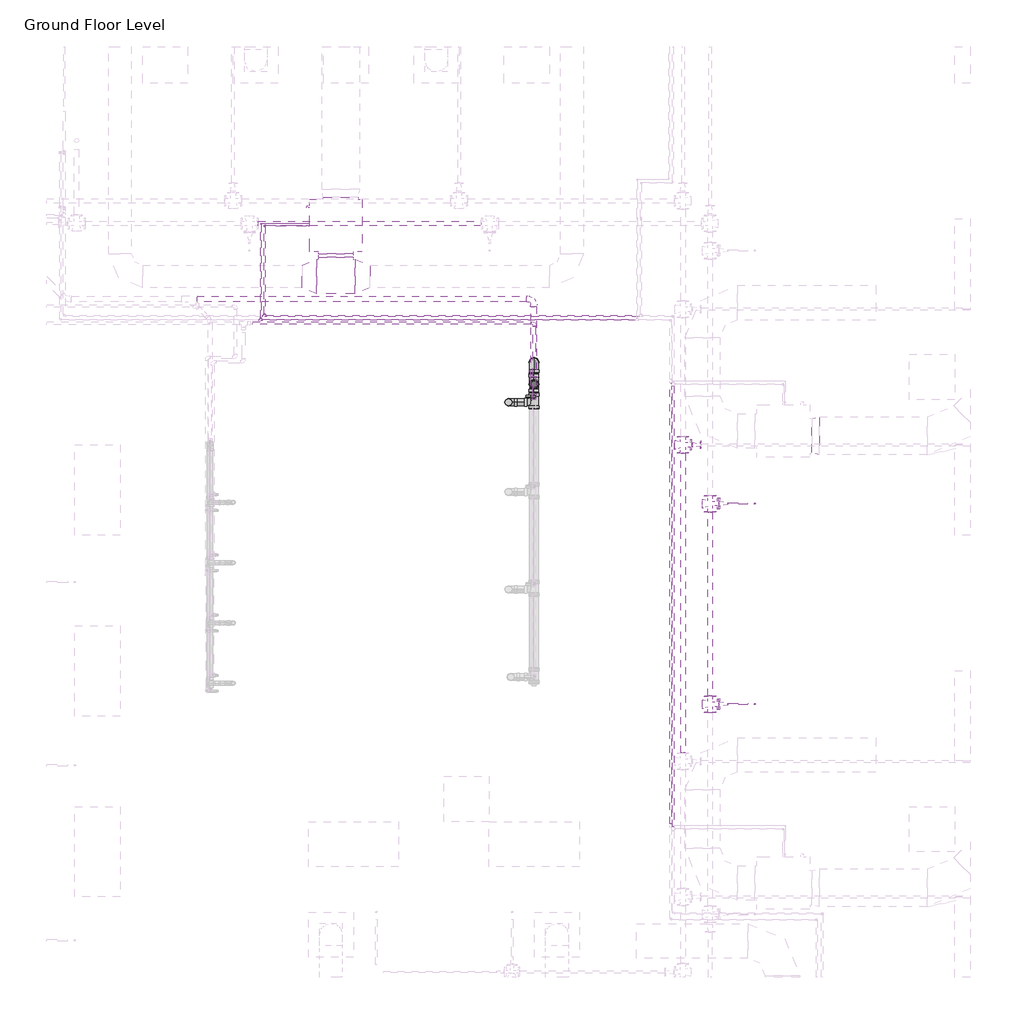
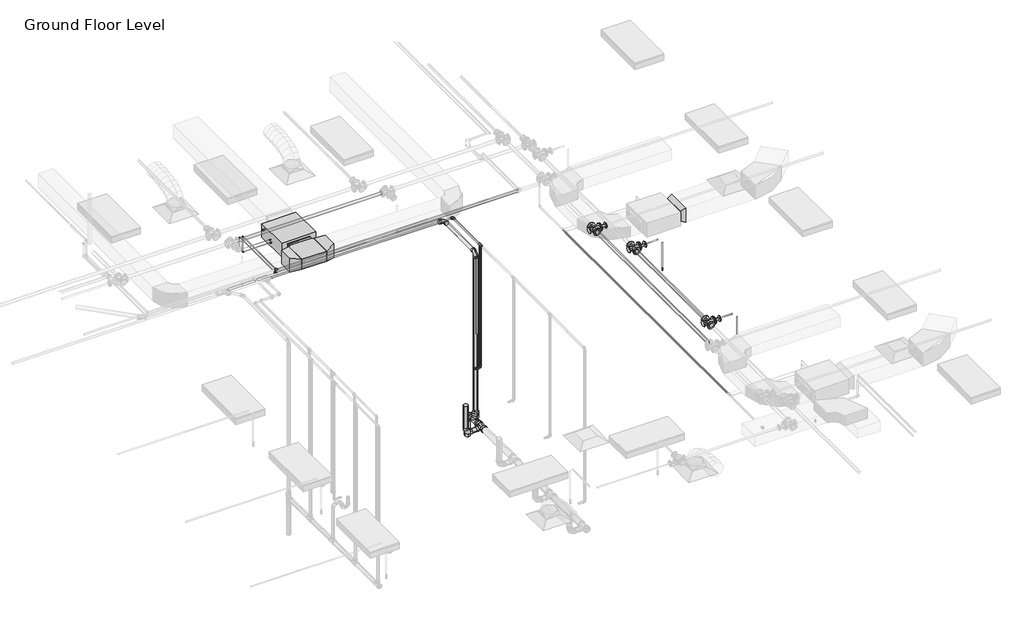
# One storey, part 66 of 74: 30 pipe segments, 24 pipe fittings, 6 duct fittings, 2 fire suppression terminals, 1 duct segment, 1 proxy.
"""IFC4 building model written with IfcOpenShell, lengths in millimetres."""

from ifc_helpers import new_model, si_unit, point, frame, frame_2d, origin, place, context, project, spatial, polyline, circle_curve, trimmed, segment, composite_curve, outline, extrude, transform, mapped, element, save
from components import fcu_daikin_iu_bad131e0, m_rectangular_tee_standard_fa4de0e8, m_rectangular_transition_angle_45_degree_2b595dfe, m_rectangular_transition_angle_45_degree_27e6000f, m_rectangular_transition_angle_45_degree_1c32c0a1, m_rectangular_transition_angle_45_degree_6e5ad010, m_sprinkler_pendent_15_mm_pendent_06fcbd8e, m_bend_pvc_sch_40_dwv_standard_a4b99d37, m_bend_pvc_sch_40_dwv_standard_b7b4a97e, m_bend_pvc_sch_40_dwv_standard_c8221c0d, m_bend_pvc_sch_40_dwv_standard_69456cca, m_elbow_generic_standard_a088f956, m_elbow_generic_standard_2a704253, m_elbow_generic_standard_6b1a80c6, m_elbow_generic_standard_5542be81, m_reducer_flanged_cs_class_150_standard_9dfe9ec5, m_reducer_flanged_cs_class_150_standard_a7631c35, m_reducer_pvc_sch_40_dwv_standard_9996614f, m_tee_generic_standard_cdc1cff5, m_tee_generic_standard_bbfc025c, m_tee_reducing_sanitary_pvc_sch_40_dwv_standard_b49161a9, m_tee_reducing_sanitary_pvc_sch_40_dwv_standard_c42f3c59, m_tee_round_base_flanged_cs_class_150_standard_dd767e04, m_transition_generic_standard_e9aec4dd, m_transition_generic_standard_c2658a33, standard_517a5a8d, standard_72b35c3b

model = new_model("IFC4")

# Units and contexts
model_context = context("Model", 3, world=origin())
ifc_project = project(units=[si_unit("LENGTHUNIT", "METRE", prefix="MILLI")], contexts=[model_context])

# Site, building, storey
site = spatial("IfcSite", under=ifc_project)
building = spatial("IfcBuilding", under=site)
storey = spatial("IfcBuildingStorey", under=building, Name="Ground Floor Level", Elevation=900.0)

# Proxy
placement = place(None, origin())
fcu_daikin_iu_shape = fcu_daikin_iu_bad131e0(model_context)
element("IfcBuildingElementProxy", 1, Name="FCU-DAIKIN IU : 4.5kW, 230V/50Hz/1Ph", ObjectType="FCU-DAIKIN IU : 4.5kW, 230V/50Hz/1Ph", at=placement, inside=storey, context=model_context, shape_type="MappedRepresentation", body=[
    mapped(fcu_daikin_iu_shape, transform((1027.7672395, 14745.2153534, 3934.0872564), x_axis=(-1.0, 0.0, 0.0), y_axis=(0.0, -1.0, 0.0), z_axis=(0.0, 0.0, 1.0))),
])

# Duct fittings
m_rectangular_tee_standard_shape = m_rectangular_tee_standard_fa4de0e8(model_context)
element("IfcDuctFitting", 2, ObjectType="M_Rectangular Tee : Standard", at=placement, inside=storey, context=model_context, shape_type="MappedRepresentation", body=[
    mapped(m_rectangular_tee_standard_shape, transform((1027.7672395, 14069.8153534, 4075.2872564), x_axis=(-1.0, 0.0, 0.0), y_axis=(0.0, -1.0, 0.0), z_axis=(0.0, 0.0, 1.0))),
])
m_rectangular_transition_angle_45_degree_shape = m_rectangular_transition_angle_45_degree_2b595dfe(model_context)
element("IfcDuctFitting", 3, ObjectType="M_Rectangular Transition - Angle : 45 Degree", at=placement, inside=storey, context=model_context, shape_type="MappedRepresentation", body=[
    mapped(m_rectangular_transition_angle_45_degree_shape, transform((7344.2139492, 11956.1779527, 4100.0057729), x_axis=(1.0, 0.0, 0.0), y_axis=(0.0, 1.0, 0.0), z_axis=(0.0, 0.0, 1.0))),
])
m_rectangular_transition_angle_45_degree_2_shape = m_rectangular_transition_angle_45_degree_27e6000f(model_context)
element("IfcDuctFitting", 4, ObjectType="M_Rectangular Transition - Angle : 45 Degree", at=placement, inside=storey, context=model_context, shape_type="MappedRepresentation", body=[
    mapped(m_rectangular_transition_angle_45_degree_2_shape, transform((1027.7672395, 14369.8153534, 4075.2872564), x_axis=(0.0, -1.0, 0.0), y_axis=(1.0, 0.0, 0.0), z_axis=(0.0, 0.0, 1.0))),
])
m_rectangular_transition_angle_45_degree_3_shape = m_rectangular_transition_angle_45_degree_1c32c0a1(model_context)
element("IfcDuctFitting", 5, ObjectType="M_Rectangular Transition - Angle : 45 Degree", at=placement, inside=storey, context=model_context, shape_type="MappedRepresentation", body=[
    mapped(m_rectangular_transition_angle_45_degree_3_shape, transform((1027.7672395, 14326.1149854, 4075.2872564), x_axis=(0.0, -1.0, 0.0), y_axis=(1.0, 0.0, 0.0), z_axis=(0.0, 0.0, 1.0))),
])
m_rectangular_transition_angle_45_degree_4_shape = m_rectangular_transition_angle_45_degree_6e5ad010(model_context)
element("IfcDuctFitting", 6, ObjectType="M_Rectangular Transition - Angle : 45 Degree", at=placement, inside=storey, context=model_context, shape_type="MappedRepresentation", body=[
    mapped(m_rectangular_transition_angle_45_degree_4_shape, transform((771.8297395, 14069.8153534, 4075.2872564), x_axis=(-1.0, 0.0, 0.0), y_axis=(0.0, -1.0, 0.0), z_axis=(0.0, 0.0, 1.0))),
])
element("IfcDuctFitting", 7, ObjectType="M_Rectangular Transition - Angle : 45 Degree", at=placement, inside=storey, context=model_context, shape_type="MappedRepresentation", body=[
    mapped(m_rectangular_transition_angle_45_degree_4_shape, transform((1283.7047395, 14069.8153534, 4075.2872564), x_axis=(1.0, 0.0, 0.0), y_axis=(0.0, 1.0, 0.0), z_axis=(0.0, 0.0, 1.0))),
])

# Duct segment
element("IfcDuctSegment", 8, ObjectType="Radius Elbows / Taps", at=placement, inside=storey, context=model_context, shape_type="SweptSolid", body=[
    extrude(outline(polyline([(796.7672395, 14369.4532214), (1258.7672395, 14369.4532214), (1258.7672395, 14326.1149854), (796.7672395, 14326.1149854), (796.7672395, 14369.4532214)])), frame((0.0, 0.0, 3968.2872564), z_axis=(0.0, 0.0, 1.0), x_axis=(1.0, 0.0, 0.0)), (0.0, 0.0, 1.0), 214.0),
])

# Fire suppression terminals
m_sprinkler_pendent_15_mm_pendent_shape = m_sprinkler_pendent_15_mm_pendent_06fcbd8e(model_context)
element("IfcFireSuppressionTerminal", 9, ObjectType="M_Sprinkler - Pendent : 15 mm Pendent", at=placement, inside=storey, context=model_context, shape_type="MappedRepresentation", body=[
    mapped(m_sprinkler_pendent_15_mm_pendent_shape, transform((6592.5481019, 11054.9808263, 3650.0), x_axis=(1.0, 0.0, 0.0), y_axis=(0.0, 1.0, 0.0), z_axis=(0.0, 0.0, 1.0))),
])
element("IfcFireSuppressionTerminal", 10, ObjectType="M_Sprinkler - Pendent : 15 mm Pendent", at=placement, inside=storey, context=model_context, shape_type="MappedRepresentation", body=[
    mapped(m_sprinkler_pendent_15_mm_pendent_shape, transform((6592.5481019, 8393.5579106, 3650.0), x_axis=(1.0, 0.0, 0.0), y_axis=(0.0, 1.0, 0.0), z_axis=(0.0, 0.0, 1.0))),
])

# Pipe fittings
m_bend_pvc_sch_40_dwv_standard_shape = m_bend_pvc_sch_40_dwv_standard_a4b99d37(model_context)
element("IfcPipeFitting", 11, ObjectType="M_Bend - PVC - Sch 40 - DWV : Standard", at=placement, inside=storey, context=model_context, shape_type="MappedRepresentation", body=[
    mapped(m_bend_pvc_sch_40_dwv_standard_shape, transform((3319.2245422, 12401.0385609, 390.1593073), x_axis=(0.0, 0.0, -1.0), y_axis=(1.0, 0.0, 0.0), z_axis=(0.0, -1.0, 0.0))),
])
m_bend_pvc_sch_40_dwv_standard_2_shape = m_bend_pvc_sch_40_dwv_standard_b7b4a97e(model_context)
element("IfcPipeFitting", 12, ObjectType="M_Bend - PVC - Sch 40 - DWV : Standard", at=placement, inside=storey, context=model_context, shape_type="MappedRepresentation", body=[
    mapped(m_bend_pvc_sch_40_dwv_standard_2_shape, transform((3657.4922763, 12931.9692954, 384.8), x_axis=(0.0, 0.9999500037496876, -0.00999950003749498), y_axis=(0.0, -0.00999950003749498, -0.9999500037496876), z_axis=(-1.0, 0.0, 0.0))),
])
m_bend_pvc_sch_40_dwv_standard_3_shape = m_bend_pvc_sch_40_dwv_standard_c8221c0d(model_context)
element("IfcPipeFitting", 13, ObjectType="M_Bend - PVC - Sch 40 - DWV : Standard", at=placement, inside=storey, context=model_context, shape_type="MappedRepresentation", body=[
    mapped(m_bend_pvc_sch_40_dwv_standard_3_shape, transform((3657.4860907, 12640.4076203, 4054.1870995), x_axis=(0.0, 0.0, 1.0), y_axis=(0.0, 1.0, 0.0), z_axis=(-1.0, 0.0, 0.0))),
])
m_bend_pvc_sch_40_dwv_standard_4_shape = m_bend_pvc_sch_40_dwv_standard_69456cca(model_context)
element("IfcPipeFitting", 14, ObjectType="M_Bend - PVC - Sch 40 - DWV : Standard", at=placement, inside=storey, context=model_context, shape_type="MappedRepresentation", body=[
    mapped(m_bend_pvc_sch_40_dwv_standard_4_shape, transform((3657.4860907, 13768.7316659, 4065.526469), x_axis=(0.0, 0.9999495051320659, 0.010049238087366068), y_axis=(-0.9999499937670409, -0.00010049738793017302, 0.009999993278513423), z_axis=(0.01000049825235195, -0.010048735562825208, 0.9998995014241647))),
])
m_elbow_generic_standard_shape = m_elbow_generic_standard_a088f956(model_context)
element("IfcPipeFitting", 15, ObjectType="M_Elbow - Generic : Standard", at=placement, inside=storey, context=model_context, shape_type="MappedRepresentation", body=[
    mapped(m_elbow_generic_standard_shape, transform((79.6672395, 14745.2153534, 4380.0), x_axis=(0.0, 0.0, 1.0), y_axis=(0.0, -1.0, 0.0), z_axis=(1.0, 0.0, 0.0))),
])
m_elbow_generic_standard_2_shape = m_elbow_generic_standard_2a704253(model_context)
element("IfcPipeFitting", 16, ObjectType="M_Elbow - Generic : Standard", at=placement, inside=storey, context=model_context, shape_type="MappedRepresentation", body=[
    mapped(m_elbow_generic_standard_2_shape, transform((29.9807053, 14770.2153534, 4365.0), x_axis=(0.0, 0.0, 1.0), y_axis=(0.0, -1.0, 0.0), z_axis=(1.0, 0.0, 0.0))),
])
m_elbow_generic_standard_3_shape = m_elbow_generic_standard_6b1a80c6(model_context)
element("IfcPipeFitting", 17, ObjectType="M_Elbow - Generic : Standard", at=placement, inside=storey, context=model_context, shape_type="MappedRepresentation", body=[
    mapped(m_elbow_generic_standard_3_shape, transform((79.6640192, 14745.2153534, 4034.0996164), x_axis=(0.0, 0.0, -1.0), y_axis=(1.0, 0.0, 0.0), z_axis=(0.0, -1.0, 0.0))),
])
m_elbow_generic_standard_4_shape = m_elbow_generic_standard_5542be81(model_context)
element("IfcPipeFitting", 18, ObjectType="M_Elbow - Generic : Standard", at=placement, inside=storey, context=model_context, shape_type="MappedRepresentation", body=[
    mapped(m_elbow_generic_standard_4_shape, transform((29.9777475, 14770.2153534, 4084.8996164), x_axis=(0.0, 0.0, -1.0), y_axis=(1.0, 0.0, 0.0), z_axis=(0.0, -1.0, 0.0))),
])
m_reducer_flanged_cs_class_150_standard_shape = m_reducer_flanged_cs_class_150_standard_9dfe9ec5(model_context)
element("IfcPipeFitting", 19, ObjectType="M_Reducer - Flanged - CS - Class 150 : Standard", at=placement, inside=storey, context=model_context, shape_type="MappedRepresentation", body=[
    mapped(m_reducer_flanged_cs_class_150_standard_shape, transform((6111.057812, 11054.9808263, 4291.2754753), x_axis=(1.0, 0.0, 0.0), y_axis=(0.0, 0.0, -1.0), z_axis=(0.0, 1.0, 0.0))),
])
element("IfcPipeFitting", 20, ObjectType="M_Reducer - Flanged - CS - Class 150 : Standard", at=placement, inside=storey, context=model_context, shape_type="MappedRepresentation", body=[
    mapped(m_reducer_flanged_cs_class_150_standard_shape, transform((6111.057812, 8393.5579106, 4291.2754753), x_axis=(1.0, 0.0, 0.0), y_axis=(0.0, 0.0, -1.0), z_axis=(0.0, 1.0, 0.0))),
])
m_reducer_flanged_cs_class_150_standard_2_shape = m_reducer_flanged_cs_class_150_standard_a7631c35(model_context)
element("IfcPipeFitting", 21, ObjectType="M_Reducer - Flanged - CS - Class 150 : Standard", at=placement, inside=storey, context=model_context, shape_type="MappedRepresentation", body=[
    mapped(m_reducer_flanged_cs_class_150_standard_2_shape, transform((5749.869498, 11835.2153534, 4360.0), x_axis=(1.0, 0.0, 0.0), y_axis=(0.0, 0.0, 1.0), z_axis=(0.0, -1.0, 0.0))),
])
m_reducer_pvc_sch_40_dwv_standard_shape = m_reducer_pvc_sch_40_dwv_standard_9996614f(model_context)
element("IfcPipeFitting", 22, ObjectType="M_Reducer - PVC - Sch 40 - DWV : Standard", at=placement, inside=storey, context=model_context, shape_type="MappedRepresentation", body=[
    mapped(m_reducer_pvc_sch_40_dwv_standard_shape, transform((3657.4891752, 12640.1615283, 533.8243961), x_axis=(0.0, 7.101608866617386e-05, 0.9999999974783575), y_axis=(0.0, 0.9999999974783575, -7.101608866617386e-05), z_axis=(-1.0, 0.0, 0.0))),
])
m_tee_generic_standard_shape = m_tee_generic_standard_cdc1cff5(model_context)
element("IfcPipeFitting", 23, ObjectType="M_Tee - Generic : Standard", at=placement, inside=storey, context=model_context, shape_type="MappedRepresentation", body=[
    mapped(m_tee_generic_standard_shape, transform((29.9807053, 13494.0185138, 4365.0), x_axis=(-1.0, 0.0, 0.0), y_axis=(0.0, -1.0, 0.0), z_axis=(0.0, 0.0, 1.0))),
])
m_tee_generic_standard_2_shape = m_tee_generic_standard_bbfc025c(model_context)
element("IfcPipeFitting", 24, ObjectType="M_Tee - Generic : Standard", at=placement, inside=storey, context=model_context, shape_type="MappedRepresentation", body=[
    mapped(m_tee_generic_standard_2_shape, transform((79.6672395, 13545.2153534, 4380.0), x_axis=(-1.0, 0.0, 0.0), y_axis=(0.0, -1.0, 0.0), z_axis=(0.0, 0.0, 1.0))),
])
m_tee_reducing_sanitary_pvc_sch_40_dwv_standard_shape = m_tee_reducing_sanitary_pvc_sch_40_dwv_standard_b49161a9(model_context)
element("IfcPipeFitting", 25, ObjectType="M_Tee Reducing Sanitary - PVC - Sch 40 - DWV : Standard", at=placement, inside=storey, context=model_context, shape_type="MappedRepresentation", body=[
    mapped(m_tee_reducing_sanitary_pvc_sch_40_dwv_standard_shape, transform((3657.4922763, 12401.038061, 390.1093123), x_axis=(0.0, -0.9999500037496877, 0.009999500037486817), y_axis=(1.0000000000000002, 0.0, 0.0), z_axis=(0.0, 0.009999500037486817, 0.9999500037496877))),
])
m_tee_reducing_sanitary_pvc_sch_40_dwv_standard_2_shape = m_tee_reducing_sanitary_pvc_sch_40_dwv_standard_c42f3c59(model_context)
element("IfcPipeFitting", 26, ObjectType="M_Tee Reducing Sanitary - PVC - Sch 40 - DWV : Standard", at=placement, inside=storey, context=model_context, shape_type="MappedRepresentation", body=[
    mapped(m_tee_reducing_sanitary_pvc_sch_40_dwv_standard_2_shape, transform((3657.4922763, 12640.3832411, 387.7158605), x_axis=(0.0, -0.9999500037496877, 0.009999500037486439), y_axis=(0.0, -0.009999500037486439, -0.9999500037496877), z_axis=(1.0, 0.0, 0.0))),
])
m_tee_round_base_flanged_cs_class_150_standard_shape = m_tee_round_base_flanged_cs_class_150_standard_dd767e04(model_context)
element("IfcPipeFitting", 27, ObjectType="M_Tee Round Base - Flanged - CS - Class 150 : Standard", at=placement, inside=storey, context=model_context, shape_type="MappedRepresentation", body=[
    mapped(m_tee_round_base_flanged_cs_class_150_standard_shape, transform((5997.057812, 11054.9808263, 4291.0943441), x_axis=(0.0, 1.0, 0.0), y_axis=(-1.0, 0.0, 0.0), z_axis=(0.0, 0.0, 1.0))),
])
element("IfcPipeFitting", 28, ObjectType="M_Tee Round Base - Flanged - CS - Class 150 : Standard", at=placement, inside=storey, context=model_context, shape_type="MappedRepresentation", body=[
    mapped(m_tee_round_base_flanged_cs_class_150_standard_shape, transform((5997.057812, 8393.5579106, 4291.0943441), x_axis=(0.0, 1.0, 0.0), y_axis=(-1.0, 0.0, 0.0), z_axis=(0.0, 0.0, 1.0))),
])
element("IfcPipeFitting", 29, ObjectType="M_Tee Round Base - Flanged - CS - Class 150 : Standard", at=placement, inside=storey, context=model_context, shape_type="MappedRepresentation", body=[
    mapped(m_tee_round_base_flanged_cs_class_150_standard_shape, transform((5635.869498, 11835.2153534, 4360.0), x_axis=(0.0, 1.0, 0.0), y_axis=(-1.0, 0.0, 0.0), z_axis=(0.0, 0.0, 1.0))),
])
m_transition_generic_standard_shape = m_transition_generic_standard_e9aec4dd(model_context)
element("IfcPipeFitting", 30, ObjectType="M_Transition - Generic : Standard", at=placement, inside=storey, context=model_context, shape_type="MappedRepresentation", body=[
    mapped(m_transition_generic_standard_shape, transform((79.6672395, 13570.6153534, 4380.0), x_axis=(0.0, 1.0, 0.0), y_axis=(-1.0, 0.0, 0.0), z_axis=(0.0, 0.0, 1.0))),
])
m_transition_generic_standard_2_shape = m_transition_generic_standard_c2658a33(model_context)
element("IfcPipeFitting", 31, ObjectType="M_Transition - Generic : Standard", at=placement, inside=storey, context=model_context, shape_type="MappedRepresentation", body=[
    mapped(m_transition_generic_standard_2_shape, transform((29.9807053, 13516.2435138, 4365.0), x_axis=(0.0, 1.0, 0.0), y_axis=(-1.0, 0.0, 0.0), z_axis=(0.0, 0.0, 1.0))),
])
standard_shape = standard_517a5a8d(model_context)
element("IfcPipeFitting", 32, ObjectType="M_Elbow - CPVC - Sch 40 : Standard", at=placement, inside=storey, context=model_context, shape_type="MappedRepresentation", body=[
    mapped(standard_shape, transform((3662.4674395, 13449.9865561, 4315.0), x_axis=(0.0, 1.0, 0.0), y_axis=(-1.0, 0.0, 0.0), z_axis=(0.0, 0.0, 1.0))),
])
element("IfcPipeFitting", 33, ObjectType="M_Elbow - CPVC - Sch 40 : Standard", at=placement, inside=storey, context=model_context, shape_type="MappedRepresentation", body=[
    mapped(standard_shape, transform((3662.4674395, 12474.4768272, 1655.0), x_axis=(0.0, 0.0, -1.0), y_axis=(-1.0, 0.0, 0.0), z_axis=(0.0, 1.0, 0.0))),
])
standard_2_shape = standard_72b35c3b(model_context)
element("IfcPipeFitting", 34, ObjectType="M_Tee - CPVC - Sch 40 : Standard", at=placement, inside=storey, context=model_context, shape_type="MappedRepresentation", body=[
    mapped(standard_2_shape, transform((3662.4674395, 12474.4768272, 4315.0), x_axis=(0.0, -1.0, 0.0), y_axis=(0.0, 0.0, 1.0), z_axis=(-1.0, 0.0, 0.0))),
])

# Pipe segments
element("IfcPipeSegment", 35, ObjectType="CPVC", at=placement, inside=storey, context=model_context, shape_type="SweptSolid", body=[
    extrude(outline(composite_curve([segment(trimmed(circle_curve(frame_2d((13449.9865561, 4315.0)), 16.7005), [point((13433.2860561, 4315.0))], [point((13449.9865561, 4331.7005))], False, "CARTESIAN"), True, "CONTINUOUS"), segment(trimmed(circle_curve(frame_2d((13449.9865561, 4315.0)), 16.7005), [point((13449.9865561, 4331.7005))], [point((13466.6870561, 4315.0))], False, "CARTESIAN"), True, "CONTINUOUS"), segment(trimmed(circle_curve(frame_2d((13449.9865561, 4315.0)), 16.7005), [point((13466.6870561, 4315.0))], [point((13449.9865561, 4298.2995))], False, "CARTESIAN"), True, "CONTINUOUS"), segment(trimmed(circle_curve(frame_2d((13449.9865561, 4315.0)), 16.7005), [point((13449.9865561, 4298.2995))], [point((13433.2860561, 4315.0))], False, "CARTESIAN"), True, "CONTINUOUS")], self_intersect=False)), frame((-77.1388855, 0.0, 0.0), z_axis=(1.0, 0.0, 0.0), x_axis=(0.0, 1.0, 0.0)), (0.0, 0.0, 1.0), 3696.343775),
])
element("IfcPipeSegment", 36, ObjectType="CPVC", at=placement, inside=storey, context=model_context, shape_type="SweptSolid", body=[
    extrude(outline(composite_curve([segment(trimmed(circle_curve(frame_2d((12474.4768272, 1655.0)), 16.7005), [point((12491.1773272, 1655.0))], [point((12474.4768272, 1638.2995))], False, "CARTESIAN"), True, "CONTINUOUS"), segment(trimmed(circle_curve(frame_2d((12474.4768272, 1655.0)), 16.7005), [point((12474.4768272, 1638.2995))], [point((12457.7763272, 1655.0))], False, "CARTESIAN"), True, "CONTINUOUS"), segment(trimmed(circle_curve(frame_2d((12474.4768272, 1655.0)), 16.7005), [point((12457.7763272, 1655.0))], [point((12474.4768272, 1671.7005))], False, "CARTESIAN"), True, "CONTINUOUS"), segment(trimmed(circle_curve(frame_2d((12474.4768272, 1655.0)), 16.7005), [point((12474.4768272, 1671.7005))], [point((12491.1773272, 1655.0))], False, "CARTESIAN"), True, "CONTINUOUS")], self_intersect=False)), frame((3552.7672395, 0.0, 0.0), z_axis=(1.0, 0.0, 0.0), x_axis=(0.0, 1.0, 0.0)), (0.0, 0.0, 1.0), 66.43765),
])
element("IfcPipeSegment", 37, ObjectType="CPVC", at=placement, inside=storey, context=model_context, shape_type="SweptSolid", body=[
    extrude(outline(composite_curve([segment(trimmed(circle_curve(frame_2d((3662.4674395, 12474.4768272)), 16.7005), [point((3679.1679395, 12474.4768272))], [point((3662.4674395, 12457.7763272))], False, "CARTESIAN"), True, "CONTINUOUS"), segment(trimmed(circle_curve(frame_2d((3662.4674395, 12474.4768272)), 16.7005), [point((3662.4674395, 12457.7763272))], [point((3645.7669395, 12474.4768272))], False, "CARTESIAN"), True, "CONTINUOUS"), segment(trimmed(circle_curve(frame_2d((3662.4674395, 12474.4768272)), 16.7005), [point((3645.7669395, 12474.4768272))], [point((3662.4674395, 12491.1773272))], False, "CARTESIAN"), True, "CONTINUOUS"), segment(trimmed(circle_curve(frame_2d((3662.4674395, 12474.4768272)), 16.7005), [point((3662.4674395, 12491.1773272))], [point((3679.1679395, 12474.4768272))], False, "CARTESIAN"), True, "CONTINUOUS")], self_intersect=False)), frame((0.0, 0.0, 1698.26255), z_axis=(0.0, 0.0, 1.0), x_axis=(1.0, 0.0, 0.0)), (0.0, 0.0, 1.0), 2577.03725),
])
element("IfcPipeSegment", 38, ObjectType="CPVC", at=placement, inside=storey, context=model_context, shape_type="SweptSolid", body=[
    extrude(outline(composite_curve([segment(trimmed(circle_curve(frame_2d((4315.0, 3662.4674395)), 16.7005), [point((4315.0, 3645.7669395))], [point((4298.2995, 3662.4674395))], False, "CARTESIAN"), True, "CONTINUOUS"), segment(trimmed(circle_curve(frame_2d((4315.0, 3662.4674395)), 16.7005), [point((4298.2995, 3662.4674395))], [point((4315.0, 3679.1679395))], False, "CARTESIAN"), True, "CONTINUOUS"), segment(trimmed(circle_curve(frame_2d((4315.0, 3662.4674395)), 16.7005), [point((4315.0, 3679.1679395))], [point((4331.7005, 3662.4674395))], False, "CARTESIAN"), True, "CONTINUOUS"), segment(trimmed(circle_curve(frame_2d((4315.0, 3662.4674395)), 16.7005), [point((4331.7005, 3662.4674395))], [point((4315.0, 3645.7669395))], False, "CARTESIAN"), True, "CONTINUOUS")], self_intersect=False)), frame((0.0, 12514.1770272, 0.0), z_axis=(0.0, 1.0, 0.0), x_axis=(0.0, 0.0, 1.0)), (0.0, 0.0, 1.0), 892.546979),
])
element("IfcPipeSegment", 39, ObjectType="Copper", at=placement, inside=storey, context=model_context, shape_type="SweptSolid", body=[
    extrude(outline(composite_curve([segment(trimmed(circle_curve(frame_2d((0.0, -6.5)), 6.5), [point((-6.5, -6.5))], [point((0.0, 0.0))], False, "CARTESIAN"), True, "CONTINUOUS"), segment(trimmed(circle_curve(frame_2d((0.0, -6.5)), 6.5), [point((0.0, 0.0))], [point((6.5, -6.5))], False, "CARTESIAN"), True, "CONTINUOUS"), segment(trimmed(circle_curve(frame_2d((0.0, -6.5)), 6.5), [point((6.5, -6.5))], [point((0.0, -13.0))], False, "CARTESIAN"), True, "CONTINUOUS"), segment(trimmed(circle_curve(frame_2d((0.0, -6.5)), 6.5), [point((0.0, -13.0))], [point((-6.5, -6.5))], False, "CARTESIAN"), True, "CONTINUOUS")], self_intersect=False)), frame((639.667096, 14745.2153534, 4027.5872564), z_axis=(-0.9999999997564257, 0.0, 2.207144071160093e-05), x_axis=(0.0, 1.0, 0.0)), (0.0, 0.0, 1.0), 545.7160357),
])
element("IfcPipeSegment", 40, ObjectType="Copper", at=placement, inside=storey, context=model_context, shape_type="SweptSolid", body=[
    extrude(outline(composite_curve([segment(trimmed(circle_curve(frame_2d((0.0, -3.35)), 3.35), [point((-3.35, -3.35))], [point((0.0, 0.0))], False, "CARTESIAN"), True, "CONTINUOUS"), segment(trimmed(circle_curve(frame_2d((0.0, -3.35)), 3.35), [point((0.0, 0.0))], [point((3.35, -3.35))], False, "CARTESIAN"), True, "CONTINUOUS"), segment(trimmed(circle_curve(frame_2d((0.0, -3.35)), 3.35), [point((3.35, -3.35))], [point((0.0, -6.7))], False, "CARTESIAN"), True, "CONTINUOUS"), segment(trimmed(circle_curve(frame_2d((0.0, -3.35)), 3.35), [point((0.0, -6.7))], [point((-3.35, -3.35))], False, "CARTESIAN"), True, "CONTINUOUS")], self_intersect=False)), frame((639.6671716, 14770.2153534, 4081.5372564), z_axis=(-0.9999999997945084, 0.0, 2.027272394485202e-05), x_axis=(0.0, 1.0, 0.0)), (0.0, 0.0, 1.0), 598.5522179),
])
element("IfcPipeSegment", 41, ObjectType="Copper", at=placement, inside=storey, context=model_context, shape_type="SweptSolid", body=[
    extrude(outline(composite_curve([segment(trimmed(circle_curve(frame_2d((4380.0, 79.6672395)), 6.5), [point((4380.0, 73.1672395))], [point((4373.5, 79.6672395))], False, "CARTESIAN"), True, "CONTINUOUS"), segment(trimmed(circle_curve(frame_2d((4380.0, 79.6672395)), 6.5), [point((4373.5, 79.6672395))], [point((4380.0, 86.1672395))], False, "CARTESIAN"), True, "CONTINUOUS"), segment(trimmed(circle_curve(frame_2d((4380.0, 79.6672395)), 6.5), [point((4380.0, 86.1672395))], [point((4386.5, 79.6672395))], False, "CARTESIAN"), True, "CONTINUOUS"), segment(trimmed(circle_curve(frame_2d((4380.0, 79.6672395)), 6.5), [point((4386.5, 79.6672395))], [point((4380.0, 73.1672395))], False, "CARTESIAN"), True, "CONTINUOUS")], self_intersect=False)), frame((0.0, 13576.9653534, 0.0), z_axis=(0.0, 1.0, 0.0), x_axis=(0.0, 0.0, 1.0)), (0.0, 0.0, 1.0), 1153.9625),
])
element("IfcPipeSegment", 42, ObjectType="Copper", at=placement, inside=storey, context=model_context, shape_type="SweptSolid", body=[
    extrude(outline(composite_curve([segment(trimmed(circle_curve(frame_2d((0.0, -6.5)), 6.5), [point((-6.5, -6.5))], [point((0.0, 0.0))], False, "CARTESIAN"), True, "CONTINUOUS"), segment(trimmed(circle_curve(frame_2d((0.0, -6.5)), 6.5), [point((0.0, 0.0))], [point((6.5, -6.5))], False, "CARTESIAN"), True, "CONTINUOUS"), segment(trimmed(circle_curve(frame_2d((0.0, -6.5)), 6.5), [point((6.5, -6.5))], [point((0.0, -13.0))], False, "CARTESIAN"), True, "CONTINUOUS"), segment(trimmed(circle_curve(frame_2d((0.0, -6.5)), 6.5), [point((0.0, -13.0))], [point((-6.5, -6.5))], False, "CARTESIAN"), True, "CONTINUOUS")], self_intersect=False)), frame((79.6640192, 14738.7153534, 4048.3868011), z_axis=(1.014803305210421e-05, 0.0, 0.9999999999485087), x_axis=(-0.9999999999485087, 0.0, 1.014803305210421e-05)), (0.0, 0.0, 1.0), 317.3256989),
])
element("IfcPipeSegment", 43, ObjectType="Copper", at=placement, inside=storey, context=model_context, shape_type="SweptSolid", body=[
    extrude(outline(composite_curve([segment(trimmed(circle_curve(frame_2d((4365.0, 29.9807053)), 3.35), [point((4365.0, 26.6307053))], [point((4361.65, 29.9807053))], False, "CARTESIAN"), True, "CONTINUOUS"), segment(trimmed(circle_curve(frame_2d((4365.0, 29.9807053)), 3.35), [point((4361.65, 29.9807053))], [point((4365.0, 33.3307053))], False, "CARTESIAN"), True, "CONTINUOUS"), segment(trimmed(circle_curve(frame_2d((4365.0, 29.9807053)), 3.35), [point((4365.0, 33.3307053))], [point((4368.35, 29.9807053))], False, "CARTESIAN"), True, "CONTINUOUS"), segment(trimmed(circle_curve(frame_2d((4365.0, 29.9807053)), 3.35), [point((4368.35, 29.9807053))], [point((4365.0, 26.6307053))], False, "CARTESIAN"), True, "CONTINUOUS")], self_intersect=False)), frame((0.0, 13521.0060138, 0.0), z_axis=(0.0, 1.0, 0.0), x_axis=(0.0, 0.0, 1.0)), (0.0, 0.0, 1.0), 1238.0718396),
])
element("IfcPipeSegment", 44, ObjectType="Copper", at=placement, inside=storey, context=model_context, shape_type="SweptSolid", body=[
    extrude(outline(composite_curve([segment(trimmed(circle_curve(frame_2d((0.0, -3.35)), 3.35), [point((-3.35, -3.35))], [point((0.0, 0.0))], False, "CARTESIAN"), True, "CONTINUOUS"), segment(trimmed(circle_curve(frame_2d((0.0, -3.35)), 3.35), [point((0.0, 0.0))], [point((3.35, -3.35))], False, "CARTESIAN"), True, "CONTINUOUS"), segment(trimmed(circle_curve(frame_2d((0.0, -3.35)), 3.35), [point((3.35, -3.35))], [point((0.0, -6.7))], False, "CARTESIAN"), True, "CONTINUOUS"), segment(trimmed(circle_curve(frame_2d((0.0, -3.35)), 3.35), [point((0.0, -6.7))], [point((-3.35, -3.35))], False, "CARTESIAN"), True, "CONTINUOUS")], self_intersect=False)), frame((29.9777475, 14766.8653534, 4096.0368906), z_axis=(1.1472088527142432e-05, 0.0, 0.9999999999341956), x_axis=(-0.9999999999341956, 0.0, 1.1472088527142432e-05)), (0.0, 0.0, 1.0), 257.8256094),
])
element("IfcPipeSegment", 45, ObjectType="Copper", at=placement, inside=storey, context=model_context, shape_type="SweptSolid", body=[
    extrude(outline(composite_curve([segment(trimmed(circle_curve(frame_2d((3851.8370709, 5505.0672395)), 11.5), [point((3851.8370709, 5493.5672395))], [point((3840.3370709, 5505.0672395))], False, "CARTESIAN"), True, "CONTINUOUS"), segment(trimmed(circle_curve(frame_2d((3851.8370709, 5505.0672395)), 11.5), [point((3840.3370709, 5505.0672395))], [point((3851.8370709, 5516.5672395))], False, "CARTESIAN"), True, "CONTINUOUS"), segment(trimmed(circle_curve(frame_2d((3851.8370709, 5505.0672395)), 11.5), [point((3851.8370709, 5516.5672395))], [point((3863.3370709, 5505.0672395))], False, "CARTESIAN"), True, "CONTINUOUS"), segment(trimmed(circle_curve(frame_2d((3851.8370709, 5505.0672395)), 11.5), [point((3863.3370709, 5505.0672395))], [point((3851.8370709, 5493.5672395))], False, "CARTESIAN"), True, "CONTINUOUS")], self_intersect=False)), frame((0.0, 6766.8098545, 0.0), z_axis=(0.0, 1.0, 0.0), x_axis=(0.0, 0.0, 1.0)), (0.0, 0.0, 1.0), 5849.2),
])
element("IfcPipeSegment", 46, ObjectType="Copper", at=placement, inside=storey, context=model_context, shape_type="SweptSolid", body=[
    extrude(outline(composite_curve([segment(trimmed(circle_curve(frame_2d((3894.9, 5472.2057053)), 8.1), [point((3894.9, 5464.1057053))], [point((3886.8, 5472.2057053))], False, "CARTESIAN"), True, "CONTINUOUS"), segment(trimmed(circle_curve(frame_2d((3894.9, 5472.2057053)), 8.1), [point((3886.8, 5472.2057053))], [point((3894.9, 5480.3057053))], False, "CARTESIAN"), True, "CONTINUOUS"), segment(trimmed(circle_curve(frame_2d((3894.9, 5472.2057053)), 8.1), [point((3894.9, 5480.3057053))], [point((3903.0, 5472.2057053))], False, "CARTESIAN"), True, "CONTINUOUS"), segment(trimmed(circle_curve(frame_2d((3894.9, 5472.2057053)), 8.1), [point((3903.0, 5472.2057053))], [point((3894.9, 5464.1057053))], False, "CARTESIAN"), True, "CONTINUOUS")], self_intersect=False)), frame((0.0, 6803.7503374, 0.0), z_axis=(0.0, 1.0, 0.0), x_axis=(0.0, 0.0, 1.0)), (0.0, 0.0, 1.0), 5855.55),
])
element("IfcPipeSegment", 47, ObjectType="Copper", at=placement, inside=storey, context=model_context, shape_type="SweptSolid", body=[
    extrude(outline(composite_curve([segment(trimmed(circle_curve(frame_2d((13494.0185138, 4365.0)), 8.1), [point((13485.9185138, 4365.0))], [point((13494.0185138, 4373.1))], False, "CARTESIAN"), True, "CONTINUOUS"), segment(trimmed(circle_curve(frame_2d((13494.0185138, 4365.0)), 8.1), [point((13494.0185138, 4373.1))], [point((13502.1185138, 4365.0))], False, "CARTESIAN"), True, "CONTINUOUS"), segment(trimmed(circle_curve(frame_2d((13494.0185138, 4365.0)), 8.1), [point((13502.1185138, 4365.0))], [point((13494.0185138, 4356.9))], False, "CARTESIAN"), True, "CONTINUOUS"), segment(trimmed(circle_curve(frame_2d((13494.0185138, 4365.0)), 8.1), [point((13494.0185138, 4356.9))], [point((13485.9185138, 4365.0))], False, "CARTESIAN"), True, "CONTINUOUS")], self_intersect=False)), frame((52.2057053, 0.0, 0.0), z_axis=(1.0, 0.0, 0.0), x_axis=(0.0, 1.0, 0.0)), (0.0, 0.0, 1.0), 4955.55),
])
element("IfcPipeSegment", 48, ObjectType="Copper", at=placement, inside=storey, context=model_context, shape_type="SweptSolid", body=[
    extrude(outline(composite_curve([segment(trimmed(circle_curve(frame_2d((13545.2153534, 4380.0)), 11.5), [point((13533.7153534, 4380.0))], [point((13545.2153534, 4391.5))], False, "CARTESIAN"), True, "CONTINUOUS"), segment(trimmed(circle_curve(frame_2d((13545.2153534, 4380.0)), 11.5), [point((13545.2153534, 4391.5))], [point((13556.7153534, 4380.0))], False, "CARTESIAN"), True, "CONTINUOUS"), segment(trimmed(circle_curve(frame_2d((13545.2153534, 4380.0)), 11.5), [point((13556.7153534, 4380.0))], [point((13545.2153534, 4368.5))], False, "CARTESIAN"), True, "CONTINUOUS"), segment(trimmed(circle_curve(frame_2d((13545.2153534, 4380.0)), 11.5), [point((13545.2153534, 4368.5))], [point((13533.7153534, 4380.0))], False, "CARTESIAN"), True, "CONTINUOUS")], self_intersect=False)), frame((105.0672395, 0.0, 0.0), z_axis=(1.0, 0.0, 0.0), x_axis=(0.0, 1.0, 0.0)), (0.0, 0.0, 1.0), 4949.2),
])
element("IfcPipeSegment", 49, ObjectType="PVC - DWV", at=placement, inside=storey, context=model_context, shape_type="SweptSolid", body=[
    extrude(outline(composite_curve([segment(trimmed(circle_curve(frame_2d((3657.4922763, 12931.9692954)), 57.15), [point((3714.6422763, 12931.9692954))], [point((3657.4922763, 12874.8192954))], False, "CARTESIAN"), True, "CONTINUOUS"), segment(trimmed(circle_curve(frame_2d((3657.4922763, 12931.9692954)), 57.15), [point((3657.4922763, 12874.8192954))], [point((3600.3422763, 12931.9692954))], False, "CARTESIAN"), True, "CONTINUOUS"), segment(trimmed(circle_curve(frame_2d((3657.4922763, 12931.9692954)), 57.15), [point((3600.3422763, 12931.9692954))], [point((3657.4922763, 12989.1192954))], False, "CARTESIAN"), True, "CONTINUOUS"), segment(trimmed(circle_curve(frame_2d((3657.4922763, 12931.9692954)), 57.15), [point((3657.4922763, 12989.1192954))], [point((3714.6422763, 12931.9692954))], False, "CARTESIAN"), True, "CONTINUOUS")], self_intersect=False)), frame((0.0, 0.0, -100.0), z_axis=(0.0, 0.0, 1.0), x_axis=(1.0, 0.0, 0.0)), (0.0, 0.0, 1.0), 341.925),
])
element("IfcPipeSegment", 50, ObjectType="PVC - DWV", at=placement, inside=storey, context=model_context, shape_type="SweptSolid", body=[
    extrude(outline(composite_curve([segment(trimmed(circle_curve(frame_2d((0.0, -44.45)), 44.45), [point((-44.45, -44.45))], [point((0.0, 0.0))], False, "CARTESIAN"), True, "CONTINUOUS"), segment(trimmed(circle_curve(frame_2d((0.0, -44.45)), 44.45), [point((0.0, 0.0))], [point((44.45, -44.45))], False, "CARTESIAN"), True, "CONTINUOUS"), segment(trimmed(circle_curve(frame_2d((0.0, -44.45)), 44.45), [point((44.45, -44.45))], [point((0.0, -88.9))], False, "CARTESIAN"), True, "CONTINUOUS"), segment(trimmed(circle_curve(frame_2d((0.0, -44.45)), 44.45), [point((0.0, -88.9))], [point((-44.45, -44.45))], False, "CARTESIAN"), True, "CONTINUOUS")], self_intersect=False)), frame((3319.2245422, 12356.5885609, 506.0594614), z_axis=(0.0, -1.0330815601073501e-06, 0.9999999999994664), x_axis=(-1.0, 0.0, 0.0)), (0.0, 0.0, 1.0), 483.9404927),
])
element("IfcPipeSegment", 51, ObjectType="PVC - DWV", at=placement, inside=storey, context=model_context, shape_type="SweptSolid", body=[
    extrude(outline(composite_curve([segment(trimmed(circle_curve(frame_2d((12401.038061, 390.1093123)), 44.45), [point((12356.588061, 390.1093123))], [point((12401.038061, 434.5593123))], False, "CARTESIAN"), True, "CONTINUOUS"), segment(trimmed(circle_curve(frame_2d((12401.038061, 390.1093123)), 44.45), [point((12401.038061, 434.5593123))], [point((12445.488061, 390.1093123))], False, "CARTESIAN"), True, "CONTINUOUS"), segment(trimmed(circle_curve(frame_2d((12401.038061, 390.1093123)), 44.45), [point((12445.488061, 390.1093123))], [point((12401.038061, 345.6593123))], False, "CARTESIAN"), True, "CONTINUOUS"), segment(trimmed(circle_curve(frame_2d((12401.038061, 390.1093123)), 44.45), [point((12401.038061, 345.6593123))], [point((12356.588061, 390.1093123))], False, "CARTESIAN"), True, "CONTINUOUS")], self_intersect=False)), frame((3435.1247422, 0.0, 0.0), z_axis=(1.0, 0.0, 0.0), x_axis=(0.0, 1.0, 0.0)), (0.0, 0.0, 1.0), 93.767334),
])
element("IfcPipeSegment", 52, ObjectType="PVC - DWV", at=placement, inside=storey, context=model_context, shape_type="SweptSolid", body=[
    extrude(outline(composite_curve([segment(trimmed(circle_curve(frame_2d((0.0, 36.5125)), 36.5125), [point((36.5125, 36.5125))], [point((0.0, 0.0))], False, "CARTESIAN"), True, "CONTINUOUS"), segment(trimmed(circle_curve(frame_2d((0.0, 36.5125)), 36.5125), [point((0.0, 0.0))], [point((-36.5125, 36.5125))], False, "CARTESIAN"), True, "CONTINUOUS"), segment(trimmed(circle_curve(frame_2d((0.0, 36.5125)), 36.5125), [point((-36.5125, 36.5125))], [point((0.0, 73.025))], False, "CARTESIAN"), True, "CONTINUOUS"), segment(trimmed(circle_curve(frame_2d((0.0, 36.5125)), 36.5125), [point((0.0, 73.025))], [point((36.5125, 36.5125))], False, "CARTESIAN"), True, "CONTINUOUS")], self_intersect=False)), frame((3657.4860907, 12739.0497603, 4091.6927716), z_axis=(0.0, 0.9999495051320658, 0.010049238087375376), x_axis=(1.0, 0.0, 0.0)), (0.0, 0.0, 1.0), 930.3528981),
])
element("IfcPipeSegment", 53, ObjectType="PVC - DWV", at=placement, inside=storey, context=model_context, shape_type="SweptSolid", body=[
    extrude(outline(composite_curve([segment(trimmed(circle_curve(frame_2d((0.0, 57.1499999)), 57.15), [point((-57.15, 57.1499999))], [point((0.0, 114.3))], False, "CARTESIAN"), True, "CONTINUOUS"), segment(trimmed(circle_curve(frame_2d((0.0, 57.1499999)), 57.15), [point((0.0, 114.3))], [point((57.15, 57.1499999))], False, "CARTESIAN"), True, "CONTINUOUS"), segment(trimmed(circle_curve(frame_2d((0.0, 57.1499999)), 57.15), [point((57.15, 57.1499999))], [point((0.0, 0.0))], False, "CARTESIAN"), True, "CONTINUOUS"), segment(trimmed(circle_curve(frame_2d((0.0, 57.1499999)), 57.15), [point((0.0, 0.0))], [point((-57.15, 57.1499999))], False, "CARTESIAN"), True, "CONTINUOUS")], self_intersect=False)), frame((3657.4891752, 12583.0107966, 528.5214125), z_axis=(0.0, 0.0001378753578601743, 0.9999999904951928), x_axis=(1.0, 0.0, 0.0)), (0.0, 0.0, 1.0), 5.3108632),
])
element("IfcPipeSegment", 54, ObjectType="PVC - DWV", at=placement, inside=storey, context=model_context, shape_type="SweptSolid", body=[
    extrude(outline(composite_curve([segment(trimmed(circle_curve(frame_2d((0.0, -57.15)), 57.15), [point((57.15, -57.15))], [point((0.0, -114.3))], False, "CARTESIAN"), True, "CONTINUOUS"), segment(trimmed(circle_curve(frame_2d((0.0, -57.15)), 57.15), [point((0.0, -114.3))], [point((-57.15, -57.15))], False, "CARTESIAN"), True, "CONTINUOUS"), segment(trimmed(circle_curve(frame_2d((0.0, -57.15)), 57.15), [point((-57.15, -57.15))], [point((0.0, 0.0))], False, "CARTESIAN"), True, "CONTINUOUS"), segment(trimmed(circle_curve(frame_2d((0.0, -57.15)), 57.15), [point((0.0, 0.0))], [point((57.15, -57.15))], False, "CARTESIAN"), True, "CONTINUOUS")], self_intersect=False)), frame((3657.4922763, 12789.6729101, 443.3758213), z_axis=(0.0, -0.9999500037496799, 0.009999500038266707), x_axis=(1.0, 0.0, 0.0)), (0.0, 0.0, 1.0), 10.815727),
])
element("IfcPipeSegment", 55, ObjectType="PVC - DWV", at=placement, inside=storey, context=model_context, shape_type="SweptSolid", body=[
    extrude(outline(composite_curve([segment(trimmed(circle_curve(frame_2d((0.0, 36.5125)), 36.5125), [point((-36.5125, 36.5125))], [point((0.0, 73.025))], False, "CARTESIAN"), True, "CONTINUOUS"), segment(trimmed(circle_curve(frame_2d((0.0, 36.5125)), 36.5125), [point((0.0, 73.025))], [point((36.5125, 36.5125))], False, "CARTESIAN"), True, "CONTINUOUS"), segment(trimmed(circle_curve(frame_2d((0.0, 36.5125)), 36.5125), [point((36.5125, 36.5125))], [point((0.0, 0.0))], False, "CARTESIAN"), True, "CONTINUOUS"), segment(trimmed(circle_curve(frame_2d((0.0, 36.5125)), 36.5125), [point((0.0, 0.0))], [point((-36.5125, 36.5125))], False, "CARTESIAN"), True, "CONTINUOUS")], self_intersect=False)), frame((3657.4891752, 12603.6564102, 637.7731169), z_axis=(-9.298042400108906e-07, 7.1956944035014e-05, 0.9999999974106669), x_axis=(0.9999999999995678, 6.690470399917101e-11, 9.298042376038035e-07)), (0.0, 0.0, 1.0), 3317.402556),
])
element("IfcPipeSegment", 56, ObjectType="PVC - DWV", at=placement, inside=storey, context=model_context, shape_type="SweptSolid", body=[
    extrude(outline(composite_curve([segment(trimmed(circle_curve(frame_2d((0.0, -57.15)), 57.15), [point((57.15, -57.15))], [point((0.0, -114.3))], False, "CARTESIAN"), True, "CONTINUOUS"), segment(trimmed(circle_curve(frame_2d((0.0, -57.15)), 57.15), [point((0.0, -114.3))], [point((-57.15, -57.15))], False, "CARTESIAN"), True, "CONTINUOUS"), segment(trimmed(circle_curve(frame_2d((0.0, -57.15)), 57.15), [point((-57.15, -57.15))], [point((0.0, 0.0))], False, "CARTESIAN"), True, "CONTINUOUS"), segment(trimmed(circle_curve(frame_2d((0.0, -57.15)), 57.15), [point((0.0, 0.0))], [point((57.15, -57.15))], False, "CARTESIAN"), True, "CONTINUOUS")], self_intersect=False)), frame((3657.4922763, 12531.8027259, 445.9545231), z_axis=(0.0, -0.9999500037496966, 0.009999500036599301), x_axis=(1.0, 0.0, 0.0)), (0.0, 0.0, 1.0), 9.549703),
])
element("IfcPipeSegment", 57, ObjectType="PVC - DWV", at=placement, inside=storey, context=model_context, shape_type="SweptSolid", body=[
    extrude(outline(composite_curve([segment(trimmed(circle_curve(frame_2d((0.0, -36.5125)), 36.5125), [point((0.0, -73.025))], [point((-36.5125, -36.5125))], False, "CARTESIAN"), True, "CONTINUOUS"), segment(trimmed(circle_curve(frame_2d((0.0, -36.5125)), 36.5125), [point((-36.5125, -36.5125))], [point((0.0, 0.0))], False, "CARTESIAN"), True, "CONTINUOUS"), segment(trimmed(circle_curve(frame_2d((0.0, -36.5125)), 36.5125), [point((0.0, 0.0))], [point((36.5124999, -36.5125))], False, "CARTESIAN"), True, "CONTINUOUS"), segment(trimmed(circle_curve(frame_2d((0.0, -36.5125)), 36.5125), [point((36.5124999, -36.5125))], [point((0.0, -73.025))], False, "CARTESIAN"), True, "CONTINUOUS")], self_intersect=False)), frame((3558.47698, 13805.2441659, 4066.516709), z_axis=(-0.9999499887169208, 0.0, 0.010001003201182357), x_axis=(0.010001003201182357, 0.0, 0.9999499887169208)), (0.0, 0.0, 1.0), 4372.6285655),
])
element("IfcPipeSegment", 58, ObjectType="Steel flanged", at=placement, inside=storey, context=model_context, shape_type="SweptSolid", body=[
    extrude(outline(composite_curve([segment(trimmed(circle_curve(frame_2d((14773.4681847, 4291.0943441)), 30.1625), [point((14743.3056847, 4291.0943441))], [point((14773.4681847, 4321.2568441))], False, "CARTESIAN"), True, "CONTINUOUS"), segment(trimmed(circle_curve(frame_2d((14773.4681847, 4291.0943441)), 30.1625), [point((14773.4681847, 4321.2568441))], [point((14803.6306847, 4291.0943441))], False, "CARTESIAN"), True, "CONTINUOUS"), segment(trimmed(circle_curve(frame_2d((14773.4681847, 4291.0943441)), 30.1625), [point((14803.6306847, 4291.0943441))], [point((14773.4681847, 4260.9318441))], False, "CARTESIAN"), True, "CONTINUOUS"), segment(trimmed(circle_curve(frame_2d((14773.4681847, 4291.0943441)), 30.1625), [point((14773.4681847, 4260.9318441))], [point((14743.3056847, 4291.0943441))], False, "CARTESIAN"), True, "CONTINUOUS")], self_intersect=False)), frame((-4.3252882, 0.0, 0.0), z_axis=(1.0, 0.0, 0.0), x_axis=(0.0, 1.0, 0.0)), (0.0, 0.0, 1.0), 2962.2121787),
])
element("IfcPipeSegment", 59, ObjectType="Steel flanged", at=placement, inside=storey, context=model_context, shape_type="SweptSolid", body=[
    extrude(outline(composite_curve([segment(trimmed(circle_curve(frame_2d((6592.5481019, 11054.9808263)), 10.668), [point((6581.8801019, 11054.9808263))], [point((6592.5481019, 11065.6488263))], False, "CARTESIAN"), True, "CONTINUOUS"), segment(trimmed(circle_curve(frame_2d((6592.5481019, 11054.9808263)), 10.668), [point((6592.5481019, 11065.6488263))], [point((6603.2161019, 11054.9808263))], False, "CARTESIAN"), True, "CONTINUOUS"), segment(trimmed(circle_curve(frame_2d((6592.5481019, 11054.9808263)), 10.668), [point((6603.2161019, 11054.9808263))], [point((6592.5481019, 11044.3128263))], False, "CARTESIAN"), True, "CONTINUOUS"), segment(trimmed(circle_curve(frame_2d((6592.5481019, 11054.9808263)), 10.668), [point((6592.5481019, 11044.3128263))], [point((6581.8801019, 11054.9808263))], False, "CARTESIAN"), True, "CONTINUOUS")], self_intersect=False)), frame((0.0, 0.0, 3650.0), z_axis=(0.0, 0.0, 1.0), x_axis=(1.0, 0.0, 0.0)), (0.0, 0.0, 1.0), 548.2668816),
])
element("IfcPipeSegment", 60, ObjectType="Steel flanged", at=placement, inside=storey, context=model_context, shape_type="SweptSolid", body=[
    extrude(outline(composite_curve([segment(trimmed(circle_curve(frame_2d((11054.9808263, 4291.2754753)), 10.668), [point((11065.6488263, 4291.2754753))], [point((11054.9808263, 4280.6074753))], False, "CARTESIAN"), True, "CONTINUOUS"), segment(trimmed(circle_curve(frame_2d((11054.9808263, 4291.2754753)), 10.668), [point((11054.9808263, 4280.6074753))], [point((11044.3128263, 4291.2754753))], False, "CARTESIAN"), True, "CONTINUOUS"), segment(trimmed(circle_curve(frame_2d((11054.9808263, 4291.2754753)), 10.668), [point((11044.3128263, 4291.2754753))], [point((11054.9808263, 4301.9434753))], False, "CARTESIAN"), True, "CONTINUOUS"), segment(trimmed(circle_curve(frame_2d((11054.9808263, 4291.2754753)), 10.668), [point((11054.9808263, 4301.9434753))], [point((11065.6488263, 4291.2754753))], False, "CARTESIAN"), True, "CONTINUOUS")], self_intersect=False)), frame((6238.057812, 0.0, 0.0), z_axis=(1.0, 0.0, 0.0), x_axis=(0.0, 1.0, 0.0)), (0.0, 0.0, 1.0), 261.4816962),
])
element("IfcPipeSegment", 61, ObjectType="Steel flanged", at=placement, inside=storey, context=model_context, shape_type="SweptSolid", body=[
    extrude(outline(composite_curve([segment(trimmed(circle_curve(frame_2d((6592.5481019, 8393.5579106)), 10.668), [point((6581.8801019, 8393.5579106))], [point((6592.5481019, 8404.2259106))], False, "CARTESIAN"), True, "CONTINUOUS"), segment(trimmed(circle_curve(frame_2d((6592.5481019, 8393.5579106)), 10.668), [point((6592.5481019, 8404.2259106))], [point((6603.2161019, 8393.5579106))], False, "CARTESIAN"), True, "CONTINUOUS"), segment(trimmed(circle_curve(frame_2d((6592.5481019, 8393.5579106)), 10.668), [point((6603.2161019, 8393.5579106))], [point((6592.5481019, 8382.8899106))], False, "CARTESIAN"), True, "CONTINUOUS"), segment(trimmed(circle_curve(frame_2d((6592.5481019, 8393.5579106)), 10.668), [point((6592.5481019, 8382.8899106))], [point((6581.8801019, 8393.5579106))], False, "CARTESIAN"), True, "CONTINUOUS")], self_intersect=False)), frame((0.0, 0.0, 3650.0), z_axis=(0.0, 0.0, 1.0), x_axis=(1.0, 0.0, 0.0)), (0.0, 0.0, 1.0), 548.2668816),
])
element("IfcPipeSegment", 62, ObjectType="Steel flanged", at=placement, inside=storey, context=model_context, shape_type="SweptSolid", body=[
    extrude(outline(composite_curve([segment(trimmed(circle_curve(frame_2d((8393.5579106, 4291.2754753)), 10.668), [point((8404.2259106, 4291.2754753))], [point((8393.5579106, 4280.6074753))], False, "CARTESIAN"), True, "CONTINUOUS"), segment(trimmed(circle_curve(frame_2d((8393.5579106, 4291.2754753)), 10.668), [point((8393.5579106, 4280.6074753))], [point((8382.8899106, 4291.2754753))], False, "CARTESIAN"), True, "CONTINUOUS"), segment(trimmed(circle_curve(frame_2d((8393.5579106, 4291.2754753)), 10.668), [point((8382.8899106, 4291.2754753))], [point((8393.5579106, 4301.9434753))], False, "CARTESIAN"), True, "CONTINUOUS"), segment(trimmed(circle_curve(frame_2d((8393.5579106, 4291.2754753)), 10.668), [point((8393.5579106, 4301.9434753))], [point((8404.2259106, 4291.2754753))], False, "CARTESIAN"), True, "CONTINUOUS")], self_intersect=False)), frame((6238.057812, 0.0, 0.0), z_axis=(1.0, 0.0, 0.0), x_axis=(0.0, 1.0, 0.0)), (0.0, 0.0, 1.0), 261.4816962),
])
element("IfcPipeSegment", 63, ObjectType="Steel flanged", at=placement, inside=storey, context=model_context, shape_type="SweptSolid", body=[
    extrude(outline(composite_curve([segment(trimmed(circle_curve(frame_2d((4291.0943441, 5997.057812)), 30.1625), [point((4291.0943441, 5966.895312))], [point((4260.9318441, 5997.057812))], False, "CARTESIAN"), True, "CONTINUOUS"), segment(trimmed(circle_curve(frame_2d((4291.0943441, 5997.057812)), 30.1625), [point((4260.9318441, 5997.057812))], [point((4291.0943441, 6027.220312))], False, "CARTESIAN"), True, "CONTINUOUS"), segment(trimmed(circle_curve(frame_2d((4291.0943441, 5997.057812)), 30.1625), [point((4291.0943441, 6027.220312))], [point((4321.2568441, 5997.057812))], False, "CARTESIAN"), True, "CONTINUOUS"), segment(trimmed(circle_curve(frame_2d((4291.0943441, 5997.057812)), 30.1625), [point((4321.2568441, 5997.057812))], [point((4291.0943441, 5966.895312))], False, "CARTESIAN"), True, "CONTINUOUS")], self_intersect=False)), frame((0.0, 8507.5579106, 0.0), z_axis=(0.0, 1.0, 0.0), x_axis=(0.0, 0.0, 1.0)), (0.0, 0.0, 1.0), 2433.4229158),
])
element("IfcPipeSegment", 64, ObjectType="Steel flanged", at=placement, inside=storey, context=model_context, shape_type="SweptSolid", body=[
    extrude(outline(composite_curve([segment(trimmed(circle_curve(frame_2d((4360.0, 5635.869498)), 30.1625), [point((4360.0, 5605.706998))], [point((4329.8375, 5635.869498))], False, "CARTESIAN"), True, "CONTINUOUS"), segment(trimmed(circle_curve(frame_2d((4360.0, 5635.869498)), 30.1625), [point((4329.8375, 5635.869498))], [point((4360.0, 5666.031998))], False, "CARTESIAN"), True, "CONTINUOUS"), segment(trimmed(circle_curve(frame_2d((4360.0, 5635.869498)), 30.1625), [point((4360.0, 5666.031998))], [point((4390.1625, 5635.869498))], False, "CARTESIAN"), True, "CONTINUOUS"), segment(trimmed(circle_curve(frame_2d((4360.0, 5635.869498)), 30.1625), [point((4390.1625, 5635.869498))], [point((4360.0, 5605.706998))], False, "CARTESIAN"), True, "CONTINUOUS")], self_intersect=False)), frame((0.0, 7749.2153534, 0.0), z_axis=(0.0, 1.0, 0.0), x_axis=(0.0, 0.0, 1.0)), (0.0, 0.0, 1.0), 3972.0),
])

save(model, "model.ifc")
